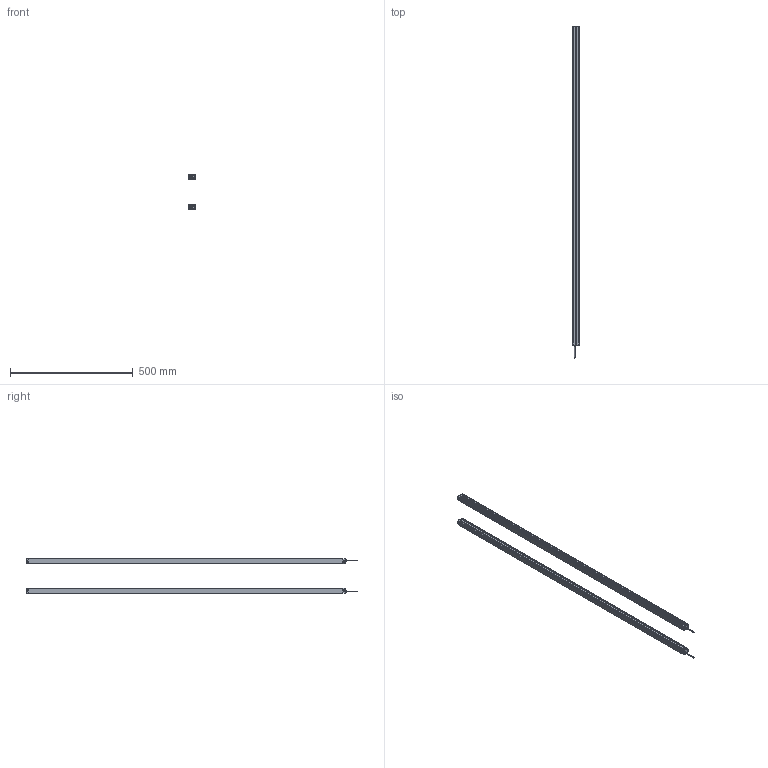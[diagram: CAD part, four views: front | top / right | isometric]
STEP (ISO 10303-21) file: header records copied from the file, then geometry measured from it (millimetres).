
FILE_DESCRIPTION (( 'STEP AP214' ), '1' );
FILE_NAME ('MTC6420.STEP', '2022-08-02T09:10:03', ( '' ), ( '' ), 'SwSTEP 2.0', 'SolidWorks 2018', '' );
FILE_SCHEMA (( 'AUTOMOTIVE_DESIGN' ));
Length unit declared in the file: millimetre
Products named in the file (5): MTC waike^MTC; P02^MTC; P01^MTC; MTC6420; 噩砃P02^MTC
Assembly tree (6 placements, depth 2):
  MTC6420
    MTC waike^MTC  x2
    P01^MTC  x2
    P02^MTC
    噩砃P02^MTC
Bounding box: 25 x 1352 x 141.4 mm (x, y, z)
Volume: 426403.9 mm3; surface area: 593398.5 mm2
Topology: 8 solids, 8 shells, 480 faces, 1396 edges, 924 vertices
Faces by surface type: plane 272, cylinder 208
Entity records: 10886 total; most frequent: DIRECTION 1881, CARTESIAN_POINT 1878, ORIENTED_EDGE 1846, EDGE_CURVE 923, AXIS2_PLACEMENT_3D 637, VERTEX_POINT 610, VECTOR 607, LINE 607
